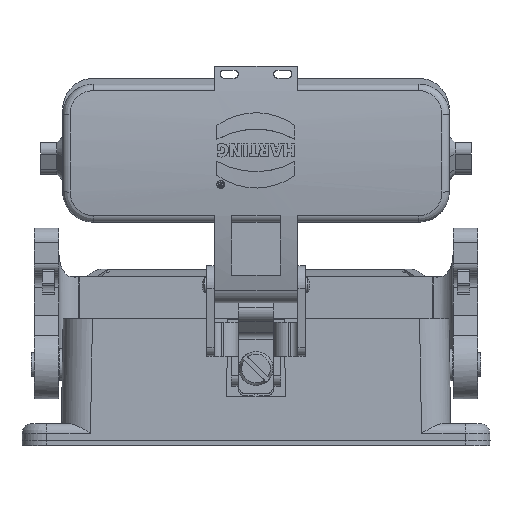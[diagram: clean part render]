
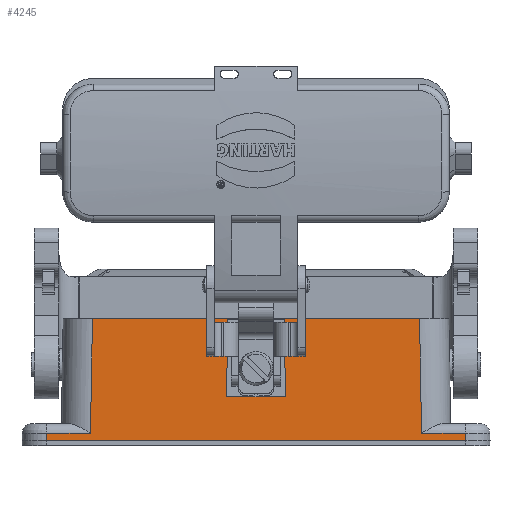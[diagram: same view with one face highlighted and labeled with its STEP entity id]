
A CAD part, front view. The second image highlights one B-rep face of the part: STEP entity #4245.
In plain terms, the highlighted planar face has unit normal (0, -1, 0.016).
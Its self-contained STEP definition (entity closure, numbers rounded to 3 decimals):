
#2845=FACE_BOUND('',#5500,.T.);
#2846=FACE_BOUND('',#5501,.T.);
#3721=PLANE('',#15076);
#4245=ADVANCED_FACE('',(#2845,#2846),#3721,.F.);
#5500=EDGE_LOOP('',(#9841,#9842,#9843,#9844,#9845,#9846,#9847,#9848));
#5501=EDGE_LOOP('',(#9849,#9850,#9851,#9852));
#6305=LINE('',#26314,#7226);
#6312=LINE('',#26366,#7233);
#6314=LINE('',#26397,#7235);
#6387=LINE('',#26601,#7308);
#6389=LINE('',#26625,#7310);
#6400=LINE('',#26675,#7321);
#6401=LINE('',#26677,#7322);
#6402=LINE('',#26678,#7323);
#6403=LINE('',#26679,#7324);
#6404=LINE('',#26680,#7325);
#6405=LINE('',#26683,#7326);
#6406=LINE('',#26684,#7327);
#7226=VECTOR('',#17003,1.);
#7233=VECTOR('',#17022,1.);
#7235=VECTOR('',#17040,1.);
#7308=VECTOR('',#17173,1.);
#7310=VECTOR('',#17181,1.);
#7321=VECTOR('',#17214,1.);
#7322=VECTOR('',#17215,1.);
#7323=VECTOR('',#17216,1.);
#7324=VECTOR('',#17217,1.);
#7325=VECTOR('',#17218,1.);
#7326=VECTOR('',#17219,1.);
#7327=VECTOR('',#17220,1.);
#9841=ORIENTED_EDGE('',*,*,#13241,.T.);
#9842=ORIENTED_EDGE('',*,*,#13100,.T.);
#9843=ORIENTED_EDGE('',*,*,#13242,.T.);
#9844=ORIENTED_EDGE('',*,*,#13123,.F.);
#9845=ORIENTED_EDGE('',*,*,#13243,.T.);
#9846=ORIENTED_EDGE('',*,*,#13114,.T.);
#9847=ORIENTED_EDGE('',*,*,#13223,.T.);
#9848=ORIENTED_EDGE('',*,*,#13244,.F.);
#9849=ORIENTED_EDGE('',*,*,#13245,.T.);
#9850=ORIENTED_EDGE('',*,*,#13246,.T.);
#9851=ORIENTED_EDGE('',*,*,#13218,.F.);
#9852=ORIENTED_EDGE('',*,*,#13247,.F.);
#11641=VERTEX_POINT('',#26315);
#11642=VERTEX_POINT('',#26316);
#11655=VERTEX_POINT('',#26365);
#11656=VERTEX_POINT('',#26367);
#11659=VERTEX_POINT('',#26377);
#11664=VERTEX_POINT('',#26396);
#11753=VERTEX_POINT('',#26600);
#11754=VERTEX_POINT('',#26602);
#11756=VERTEX_POINT('',#26624);
#11769=VERTEX_POINT('',#26676);
#11770=VERTEX_POINT('',#26681);
#11771=VERTEX_POINT('',#26682);
#13100=EDGE_CURVE('',#11641,#11642,#6305,.T.);
#13114=EDGE_CURVE('',#11656,#11655,#6312,.T.);
#13123=EDGE_CURVE('',#11664,#11659,#6314,.T.);
#13218=EDGE_CURVE('',#11753,#11754,#6387,.T.);
#13223=EDGE_CURVE('',#11655,#11756,#6389,.T.);
#13241=EDGE_CURVE('',#11769,#11641,#6400,.T.);
#13242=EDGE_CURVE('',#11642,#11659,#6401,.T.);
#13243=EDGE_CURVE('',#11664,#11656,#6402,.T.);
#13244=EDGE_CURVE('',#11769,#11756,#6403,.T.);
#13245=EDGE_CURVE('UE',#11770,#11771,#6404,.T.);
#13246=EDGE_CURVE('',#11771,#11754,#6405,.T.);
#13247=EDGE_CURVE('',#11770,#11753,#6406,.T.);
#15076=AXIS2_PLACEMENT_3D('',#26685,#17221,#17222);
#17003=DIRECTION('',(-1.,0.,0.));
#17022=DIRECTION('',(-1.,0.,0.));
#17040=DIRECTION('',(-1.,0.,0.));
#17173=DIRECTION('',(-1.,0.,0.));
#17181=DIRECTION('',(-0.017,0.016,1.));
#17214=DIRECTION('',(-0.017,-0.016,-1.));
#17215=DIRECTION('',(-0.017,-0.016,-1.));
#17216=DIRECTION('',(-0.017,0.016,1.));
#17217=DIRECTION('',(1.,0.,0.));
#17218=DIRECTION('',(-1.,0.,0.));
#17219=DIRECTION('',(0.009,0.016,1.));
#17220=DIRECTION('',(-0.009,0.016,1.));
#17221=DIRECTION('',(0.,1.,-0.016));
#17222=DIRECTION('',(0.,0.016,1.));
#26314=CARTESIAN_POINT('',(-39.55,-14.725,-14.318));
#26315=CARTESIAN_POINT('',(-33.96,-14.725,-14.318));
#26316=CARTESIAN_POINT('',(-42.974,-14.725,-14.318));
#26365=CARTESIAN_POINT('',(33.96,-14.725,-14.318));
#26366=CARTESIAN_POINT('',(33.926,-14.725,-14.318));
#26367=CARTESIAN_POINT('',(42.974,-14.725,-14.318));
#26377=CARTESIAN_POINT('',(-43.001,-14.75,-15.85));
#26396=CARTESIAN_POINT('',(43.001,-14.75,-15.85));
#26397=CARTESIAN_POINT('',(39.55,-14.75,-15.85));
#26600=CARTESIAN_POINT('',(5.862,-14.353,8.95));
#26601=CARTESIAN_POINT('',(6.,-14.353,8.95));
#26602=CARTESIAN_POINT('',(-5.862,-14.353,8.95));
#26624=CARTESIAN_POINT('',(33.551,-14.35,9.15));
#26625=CARTESIAN_POINT('',(33.553,-14.352,9.045));
#26675=CARTESIAN_POINT('',(-33.928,-14.696,-12.455));
#26676=CARTESIAN_POINT('',(-33.551,-14.35,9.15));
#26677=CARTESIAN_POINT('',(-43.002,-14.751,-15.937));
#26678=CARTESIAN_POINT('',(42.563,-14.349,9.203));
#26679=CARTESIAN_POINT('',(39.55,-14.35,9.15));
#26680=CARTESIAN_POINT('',(6.,-14.606,-6.85));
#26681=CARTESIAN_POINT('',(6.,-14.606,-6.85));
#26682=CARTESIAN_POINT('',(-6.,-14.606,-6.85));
#26683=CARTESIAN_POINT('',(-6.,-14.606,-6.86));
#26684=CARTESIAN_POINT('',(6.,-14.606,-6.86));
#26685=CARTESIAN_POINT('',(39.55,-14.35,9.15));
